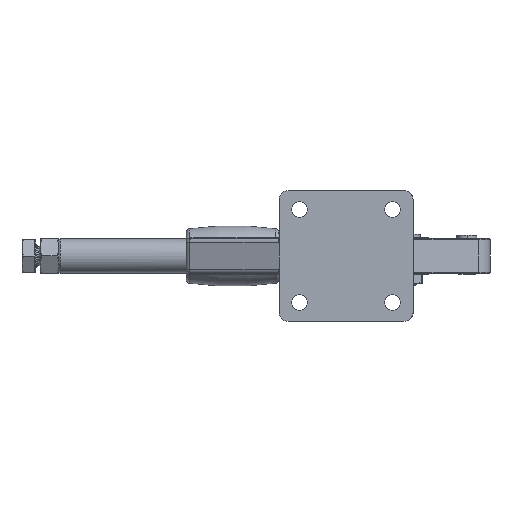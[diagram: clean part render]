
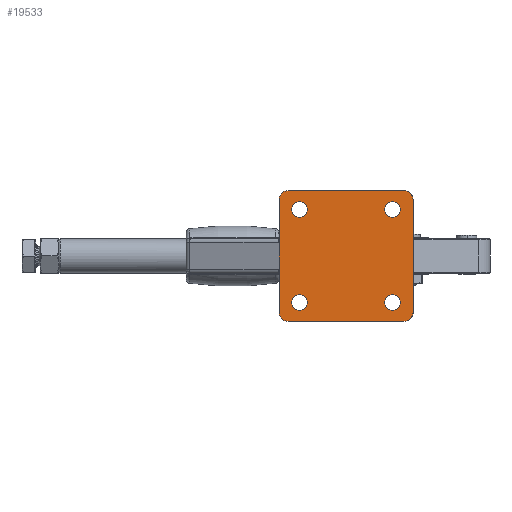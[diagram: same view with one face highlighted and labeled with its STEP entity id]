
A CAD part, front view. The second image highlights one B-rep face of the part: STEP entity #19533.
In plain terms, the highlighted planar face has unit normal (0, -1, 0).
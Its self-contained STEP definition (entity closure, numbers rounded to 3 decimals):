
#62 = DIRECTION ( 'NONE',  ( 0., -1., 0. ) ) ;
#102 = CARTESIAN_POINT ( 'NONE',  ( 25.4, -7., -25.4 ) ) ;
#189 = LINE ( 'NONE', #15831, #15803 ) ;
#232 = CARTESIAN_POINT ( 'NONE',  ( 25.4, -7., 21.15 ) ) ;
#313 = DIRECTION ( 'NONE',  ( 0., 0., 1. ) ) ;
#543 = DIRECTION ( 'NONE',  ( 0., -1., 0. ) ) ;
#624 = EDGE_CURVE ( 'NONE', #1683, #7267, #13991, .T. ) ;
#674 = CARTESIAN_POINT ( 'NONE',  ( -31.6, -7., 35.7 ) ) ;
#788 = ORIENTED_EDGE ( 'NONE', *, *, #9272, .T. ) ;
#883 = ORIENTED_EDGE ( 'NONE', *, *, #624, .T. ) ;
#1055 = AXIS2_PLACEMENT_3D ( 'NONE', #10174, #543, #11797 ) ;
#1137 = VERTEX_POINT ( 'NONE', #674 ) ;
#1315 = EDGE_LOOP ( 'NONE', ( #3925, #1937 ) ) ;
#1426 = CIRCLE ( 'NONE', #1060, 5. ) ;
#1650 = EDGE_CURVE ( 'NONE', #8884, #9650, #16290, .T. ) ;
#1680 = DIRECTION ( 'NONE',  ( 0., 0., 1. ) ) ;
#1683 = VERTEX_POINT ( 'NONE', #5461 ) ;
#1807 = DIRECTION ( 'NONE',  ( 0., 1., 0. ) ) ;
#1916 = DIRECTION ( 'NONE',  ( 0., -1., 0. ) ) ;
#1930 = CARTESIAN_POINT ( 'NONE',  ( 25.4, -7., -29.65 ) ) ;
#1937 = ORIENTED_EDGE ( 'NONE', *, *, #11755, .T. ) ;
#1999 = ORIENTED_EDGE ( 'NONE', *, *, #6277, .T. ) ;
#2158 = DIRECTION ( 'NONE',  ( 0., 1., 0. ) ) ;
#2531 = FACE_BOUND ( 'NONE', #15317, .T. ) ;
#2877 = DIRECTION ( 'NONE',  ( 0., 0., 1. ) ) ;
#2961 = CARTESIAN_POINT ( 'NONE',  ( 0., -7., 0. ) ) ;
#2995 = DIRECTION ( 'NONE',  ( -1., 0., 0. ) ) ;
#3055 = CIRCLE ( 'NONE', #10152, 4.25 ) ;
#3733 = CARTESIAN_POINT ( 'NONE',  ( -36.6, -7., -30.7 ) ) ;
#3845 = ORIENTED_EDGE ( 'NONE', *, *, #5185, .F. ) ;
#3925 = ORIENTED_EDGE ( 'NONE', *, *, #1650, .T. ) ;
#3950 = ORIENTED_EDGE ( 'NONE', *, *, #9241, .T. ) ;
#4055 = CARTESIAN_POINT ( 'NONE',  ( -36.6, -7., 30.7 ) ) ;
#4102 = VERTEX_POINT ( 'NONE', #3733 ) ;
#4423 = AXIS2_PLACEMENT_3D ( 'NONE', #11838, #2158, #13457 ) ;
#4574 = DIRECTION ( 'NONE',  ( 0., 0., 1. ) ) ;
#4614 = CARTESIAN_POINT ( 'NONE',  ( 25.4, -7., 25.4 ) ) ;
#5173 = ORIENTED_EDGE ( 'NONE', *, *, #6549, .T. ) ;
#5185 = EDGE_CURVE ( 'NONE', #18960, #6855, #7345, .T. ) ;
#5450 = EDGE_CURVE ( 'NONE', #20406, #14856, #7079, .T. ) ;
#5461 = CARTESIAN_POINT ( 'NONE',  ( -25.4, -7., -29.65 ) ) ;
#5547 = ORIENTED_EDGE ( 'NONE', *, *, #18791, .F. ) ;
#5567 = VECTOR ( 'NONE', #8620, 1000. ) ;
#5683 = ORIENTED_EDGE ( 'NONE', *, *, #5450, .T. ) ;
#6031 = ORIENTED_EDGE ( 'NONE', *, *, #7599, .T. ) ;
#6096 = CARTESIAN_POINT ( 'NONE',  ( -36.6, -7., 35.7 ) ) ;
#6234 = DIRECTION ( 'NONE',  ( 0., 0., 1. ) ) ;
#6277 = EDGE_CURVE ( 'NONE', #7267, #1683, #19177, .T. ) ;
#6549 = EDGE_CURVE ( 'NONE', #18960, #15987, #11333, .T. ) ;
#6712 = AXIS2_PLACEMENT_3D ( 'NONE', #6960, #18241, #8578 ) ;
#6833 = VECTOR ( 'NONE', #18553, 1000. ) ;
#6855 = VERTEX_POINT ( 'NONE', #15446 ) ;
#6960 = CARTESIAN_POINT ( 'NONE',  ( -25.4, -7., 25.4 ) ) ;
#7006 = CARTESIAN_POINT ( 'NONE',  ( 36.6, -7., 35.7 ) ) ;
#7079 = CIRCLE ( 'NONE', #7575, 4.25 ) ;
#7267 = VERTEX_POINT ( 'NONE', #16752 ) ;
#7268 = CARTESIAN_POINT ( 'NONE',  ( 36.6, -7., 35.7 ) ) ;
#7330 = FACE_BOUND ( 'NONE', #1315, .T. ) ;
#7345 = LINE ( 'NONE', #7268, #6833 ) ;
#7575 = AXIS2_PLACEMENT_3D ( 'NONE', #19609, #9943, #313 ) ;
#7599 = EDGE_CURVE ( 'NONE', #4102, #8126, #16597, .T. ) ;
#8126 = VERTEX_POINT ( 'NONE', #12764 ) ;
#8330 = CARTESIAN_POINT ( 'NONE',  ( 31.6, -7., 30.7 ) ) ;
#8578 = DIRECTION ( 'NONE',  ( 0., 0., 1. ) ) ;
#8620 = DIRECTION ( 'NONE',  ( 1., 0., 0. ) ) ;
#8621 = ORIENTED_EDGE ( 'NONE', *, *, #13444, .T. ) ;
#8884 = VERTEX_POINT ( 'NONE', #13778 ) ;
#8967 = ORIENTED_EDGE ( 'NONE', *, *, #14838, .F. ) ;
#8972 = CIRCLE ( 'NONE', #1055, 5. ) ;
#9081 = EDGE_CURVE ( 'NONE', #18544, #8126, #189, .T. ) ;
#9241 = EDGE_CURVE ( 'NONE', #18544, #6855, #1426, .T. ) ;
#9261 = DIRECTION ( 'NONE',  ( 0., 1., 0. ) ) ;
#9272 = EDGE_CURVE ( 'NONE', #1137, #13648, #8972, .T. ) ;
#9650 = VERTEX_POINT ( 'NONE', #232 ) ;
#9696 = CARTESIAN_POINT ( 'NONE',  ( -31.6, -7., -30.7 ) ) ;
#9749 = EDGE_CURVE ( 'NONE', #18972, #13610, #10478, .T. ) ;
#9943 = DIRECTION ( 'NONE',  ( 0., 1., 0. ) ) ;
#9961 = DIRECTION ( 'NONE',  ( 0., 0., 1. ) ) ;
#10152 = AXIS2_PLACEMENT_3D ( 'NONE', #102, #11344, #1680 ) ;
#10174 = CARTESIAN_POINT ( 'NONE',  ( -31.6, -7., 30.7 ) ) ;
#10478 = CIRCLE ( 'NONE', #6712, 4.25 ) ;
#11014 = PLANE ( 'NONE',  #13359 ) ;
#11120 = FACE_OUTER_BOUND ( 'NONE', #12581, .T. ) ;
#11305 = DIRECTION ( 'NONE',  ( 0., 0., 1. ) ) ;
#11333 = CIRCLE ( 'NONE', #18959, 5. ) ;
#11344 = DIRECTION ( 'NONE',  ( 0., 1., 0. ) ) ;
#11483 = CARTESIAN_POINT ( 'NONE',  ( -25.4, -7., 25.4 ) ) ;
#11591 = CARTESIAN_POINT ( 'NONE',  ( 31.6, -7., -30.7 ) ) ;
#11755 = EDGE_CURVE ( 'NONE', #9650, #8884, #16501, .T. ) ;
#11797 = DIRECTION ( 'NONE',  ( 0., 0., 1. ) ) ;
#11838 = CARTESIAN_POINT ( 'NONE',  ( 25.4, -7., 25.4 ) ) ;
#11840 = VECTOR ( 'NONE', #17333, 1000. ) ;
#12097 = EDGE_CURVE ( 'NONE', #13610, #18972, #15208, .T. ) ;
#12220 = CARTESIAN_POINT ( 'NONE',  ( -25.4, -7., 21.15 ) ) ;
#12581 = EDGE_LOOP ( 'NONE', ( #8967, #6031, #12627, #3950, #3845, #5173, #5547, #788 ) ) ;
#12614 = AXIS2_PLACEMENT_3D ( 'NONE', #9696, #62, #11305 ) ;
#12627 = ORIENTED_EDGE ( 'NONE', *, *, #9081, .F. ) ;
#12764 = CARTESIAN_POINT ( 'NONE',  ( -31.6, -7., -35.7 ) ) ;
#13093 = DIRECTION ( 'NONE',  ( 0., 0., 1. ) ) ;
#13194 = DIRECTION ( 'NONE',  ( 0., 0., 1. ) ) ;
#13359 = AXIS2_PLACEMENT_3D ( 'NONE', #2961, #14246, #4574 ) ;
#13444 = EDGE_CURVE ( 'NONE', #14856, #20406, #3055, .T. ) ;
#13457 = DIRECTION ( 'NONE',  ( 0., 0., 1. ) ) ;
#13610 = VERTEX_POINT ( 'NONE', #16908 ) ;
#13648 = VERTEX_POINT ( 'NONE', #4055 ) ;
#13673 = CARTESIAN_POINT ( 'NONE',  ( 31.6, -7., -35.7 ) ) ;
#13778 = CARTESIAN_POINT ( 'NONE',  ( 25.4, -7., 29.65 ) ) ;
#13991 = CIRCLE ( 'NONE', #20492, 4.25 ) ;
#14246 = DIRECTION ( 'NONE',  ( 0., 1., 0. ) ) ;
#14838 = EDGE_CURVE ( 'NONE', #4102, #13648, #16636, .T. ) ;
#14856 = VERTEX_POINT ( 'NONE', #17402 ) ;
#14898 = FACE_BOUND ( 'NONE', #19650, .T. ) ;
#15208 = CIRCLE ( 'NONE', #19051, 4.25 ) ;
#15317 = EDGE_LOOP ( 'NONE', ( #1999, #883 ) ) ;
#15446 = CARTESIAN_POINT ( 'NONE',  ( 36.6, -7., -30.7 ) ) ;
#15752 = ORIENTED_EDGE ( 'NONE', *, *, #12097, .T. ) ;
#15803 = VECTOR ( 'NONE', #2995, 1000. ) ;
#15831 = CARTESIAN_POINT ( 'NONE',  ( 36.6, -7., -35.7 ) ) ;
#15910 = DIRECTION ( 'NONE',  ( 0., 1., 0. ) ) ;
#15987 = VERTEX_POINT ( 'NONE', #19663 ) ;
#16290 = CIRCLE ( 'NONE', #4423, 4.25 ) ;
#16317 = CARTESIAN_POINT ( 'NONE',  ( -25.4, -7., -25.4 ) ) ;
#16501 = CIRCLE ( 'NONE', #19853, 4.25 ) ;
#16597 = CIRCLE ( 'NONE', #12614, 5. ) ;
#16636 = LINE ( 'NONE', #6096, #11840 ) ;
#16752 = CARTESIAN_POINT ( 'NONE',  ( -25.4, -7., -21.15 ) ) ;
#16908 = CARTESIAN_POINT ( 'NONE',  ( -25.4, -7., 29.65 ) ) ;
#17019 = CARTESIAN_POINT ( 'NONE',  ( 36.6, -7., 30.7 ) ) ;
#17333 = DIRECTION ( 'NONE',  ( 0., 0., 1. ) ) ;
#17402 = CARTESIAN_POINT ( 'NONE',  ( 25.4, -7., -21.15 ) ) ;
#18241 = DIRECTION ( 'NONE',  ( 0., 1., 0. ) ) ;
#18259 = AXIS2_PLACEMENT_3D ( 'NONE', #18939, #9261, #20543 ) ;
#18458 = LINE ( 'NONE', #7006, #5567 ) ;
#18544 = VERTEX_POINT ( 'NONE', #13673 ) ;
#18553 = DIRECTION ( 'NONE',  ( 0., 0., -1. ) ) ;
#18728 = DIRECTION ( 'NONE',  ( 0., 1., 0. ) ) ;
#18791 = EDGE_CURVE ( 'NONE', #1137, #15987, #18458, .T. ) ;
#18939 = CARTESIAN_POINT ( 'NONE',  ( -25.4, -7., -25.4 ) ) ;
#18959 = AXIS2_PLACEMENT_3D ( 'NONE', #8330, #19628, #9961 ) ;
#18960 = VERTEX_POINT ( 'NONE', #17019 ) ;
#18972 = VERTEX_POINT ( 'NONE', #12220 ) ;
#19051 = AXIS2_PLACEMENT_3D ( 'NONE', #11483, #1807, #13093 ) ;
#19177 = CIRCLE ( 'NONE', #18259, 4.25 ) ;
#19199 = FACE_BOUND ( 'NONE', #19790, .T. ) ;
#19533 = ADVANCED_FACE ( 'NONE', ( #19199, #7330, #11120, #2531, #14898 ), #11014, .F. ) ;
#19609 = CARTESIAN_POINT ( 'NONE',  ( 25.4, -7., -25.4 ) ) ;
#19628 = DIRECTION ( 'NONE',  ( 0., -1., 0. ) ) ;
#19650 = EDGE_LOOP ( 'NONE', ( #8621, #5683 ) ) ;
#19663 = CARTESIAN_POINT ( 'NONE',  ( 31.6, -7., 35.7 ) ) ;
#19749 = ORIENTED_EDGE ( 'NONE', *, *, #9749, .T. ) ;
#19790 = EDGE_LOOP ( 'NONE', ( #15752, #19749 ) ) ;
#19853 = AXIS2_PLACEMENT_3D ( 'NONE', #4614, #15910, #6234 ) ;
#20406 = VERTEX_POINT ( 'NONE', #1930 ) ;
#20492 = AXIS2_PLACEMENT_3D ( 'NONE', #16317, #18728, #2877 ) ;
#20543 = DIRECTION ( 'NONE',  ( 0., 0., 1. ) ) ;
#1060 = AXIS2_PLACEMENT_3D ( 'NONE', #11591, #1916, #13194 ) ;
